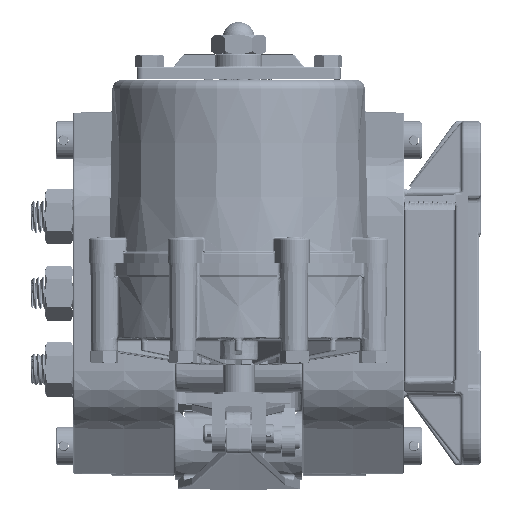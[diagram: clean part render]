
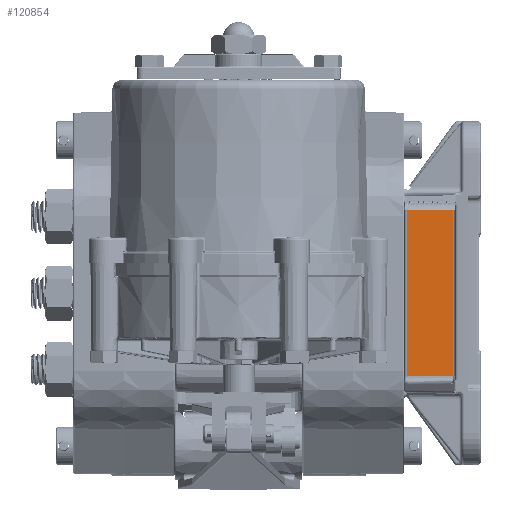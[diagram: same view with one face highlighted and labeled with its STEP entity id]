
A CAD part, left-side view. The second image highlights one B-rep face of the part: STEP entity #120854.
In plain terms, the highlighted planar face has unit normal (-1, 0.018, 0).
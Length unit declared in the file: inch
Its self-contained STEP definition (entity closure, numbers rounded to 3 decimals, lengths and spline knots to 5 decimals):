
#7160 = CARTESIAN_POINT ( 'NONE',  ( -4.01465, -3.29913, -1.625 ) ) ;
#9120 = VERTEX_POINT ( 'NONE', #212022 ) ;
#14678 = LINE ( 'NONE', #7160, #122932 ) ;
#22144 = VECTOR ( 'NONE', #89080, 39.37008 ) ;
#25558 = EDGE_CURVE ( 'NONE', #164962, #83911, #130396, .T. ) ;
#25717 = VERTEX_POINT ( 'NONE', #174265 ) ;
#26828 = CARTESIAN_POINT ( 'NONE',  ( -4.03561, -4.5, 1.625 ) ) ;
#44224 = EDGE_CURVE ( 'NONE', #9120, #25717, #248956, .T. ) ;
#45345 = CARTESIAN_POINT ( 'NONE',  ( -4.01465, -3.29913, 1.625 ) ) ;
#70819 = DIRECTION ( 'NONE',  ( -1., 0.017, 0. ) ) ;
#76981 = EDGE_CURVE ( 'NONE', #25717, #164962, #144013, .T. ) ;
#83911 = VERTEX_POINT ( 'NONE', #45345 ) ;
#85331 = DIRECTION ( 'NONE',  ( -0.017, -1., 0. ) ) ;
#89080 = DIRECTION ( 'NONE',  ( 0.017, 1., 0. ) ) ;
#89988 = VECTOR ( 'NONE', #165370, 39.37008 ) ;
#90452 = PLANE ( 'NONE',  #120408 ) ;
#90900 = CARTESIAN_POINT ( 'NONE',  ( -4.03039, -4.20087, 1.625 ) ) ;
#93493 = VECTOR ( 'NONE', #85331, 39.37008 ) ;
#96004 = EDGE_LOOP ( 'NONE', ( #244498, #232894, #224275, #206760 ) ) ;
#120408 = AXIS2_PLACEMENT_3D ( 'NONE', #192534, #70819, #212872 ) ;
#120854 = ADVANCED_FACE ( 'NONE', ( #220494 ), #90452, .T. ) ;
#122932 = VECTOR ( 'NONE', #148578, 39.37008 ) ;
#128013 = CARTESIAN_POINT ( 'NONE',  ( -4.03561, -4.5, -1.625 ) ) ;
#130396 = LINE ( 'NONE', #26828, #22144 ) ;
#144013 = LINE ( 'NONE', #225622, #89988 ) ;
#148578 = DIRECTION ( 'NONE',  ( 0., 0., -1. ) ) ;
#164962 = VERTEX_POINT ( 'NONE', #90900 ) ;
#165370 = DIRECTION ( 'NONE',  ( 0., 0., 1. ) ) ;
#174265 = CARTESIAN_POINT ( 'NONE',  ( -4.03039, -4.20087, -1.625 ) ) ;
#192534 = CARTESIAN_POINT ( 'NONE',  ( -4.03561, -4.5, 0. ) ) ;
#206760 = ORIENTED_EDGE ( 'NONE', *, *, #76981, .T. ) ;
#212022 = CARTESIAN_POINT ( 'NONE',  ( -4.01465, -3.29913, -1.625 ) ) ;
#212872 = DIRECTION ( 'NONE',  ( -0.017, -1., 0. ) ) ;
#220494 = FACE_OUTER_BOUND ( 'NONE', #96004, .T. ) ;
#224275 = ORIENTED_EDGE ( 'NONE', *, *, #44224, .T. ) ;
#225622 = CARTESIAN_POINT ( 'NONE',  ( -4.03039, -4.20087, 0. ) ) ;
#232894 = ORIENTED_EDGE ( 'NONE', *, *, #243257, .T. ) ;
#243257 = EDGE_CURVE ( 'NONE', #83911, #9120, #14678, .T. ) ;
#244498 = ORIENTED_EDGE ( 'NONE', *, *, #25558, .T. ) ;
#248956 = LINE ( 'NONE', #128013, #93493 ) ;
